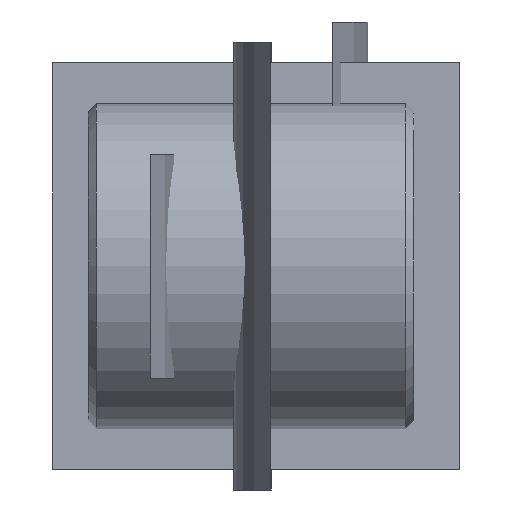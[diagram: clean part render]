
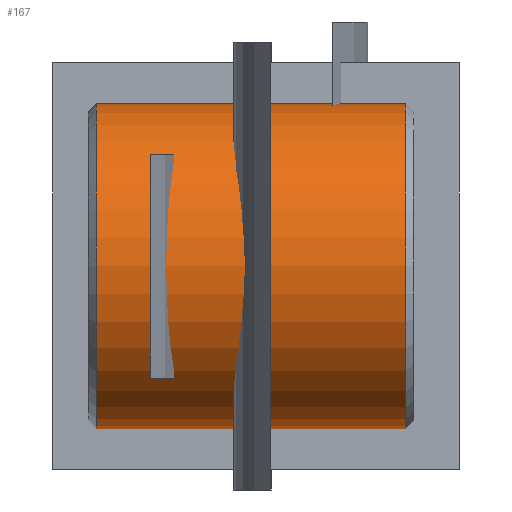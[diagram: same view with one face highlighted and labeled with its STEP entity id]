
A CAD part, left-side view. The second image highlights one B-rep face of the part: STEP entity #167.
In plain terms, the highlighted cylindrical face has radius 40 mm (diameter 80 mm), a partial arc.
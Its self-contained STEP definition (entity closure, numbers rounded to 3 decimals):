
#15 = FACE_OUTER_BOUND ( 'NONE', #90, .T. ) ;
#16 = LINE ( 'NONE', #91, #37 ) ;
#17 = AXIS2_PLACEMENT_3D ( 'NONE', #124, #268, #301 ) ;
#19 = EDGE_CURVE ( 'NONE', #422, #315, #344, .T. ) ;
#37 = VECTOR ( 'NONE', #299, 1000. ) ;
#56 = ORIENTED_EDGE ( 'NONE', *, *, #373, .F. ) ;
#90 = EDGE_LOOP ( 'NONE', ( #56, #233, #447, #119 ) ) ;
#91 = CARTESIAN_POINT ( 'NONE',  ( 0., 80., 40. ) ) ;
#111 = CARTESIAN_POINT ( 'NONE',  ( 0., 78., -40. ) ) ;
#119 = ORIENTED_EDGE ( 'NONE', *, *, #19, .T. ) ;
#122 = VECTOR ( 'NONE', #201, 1000. ) ;
#124 = CARTESIAN_POINT ( 'NONE',  ( 0., 78., 0. ) ) ;
#128 = AXIS2_PLACEMENT_3D ( 'NONE', #320, #172, #279 ) ;
#150 = DIRECTION ( 'NONE',  ( 0., -1., 0. ) ) ;
#153 = CARTESIAN_POINT ( 'NONE',  ( 0., 80., 0. ) ) ;
#167 = ADVANCED_FACE ( 'NONE', ( #15 ), #262, .T. ) ;
#172 = DIRECTION ( 'NONE',  ( 0., 1., 0. ) ) ;
#176 = VERTEX_POINT ( 'NONE', #111 ) ;
#189 = VERTEX_POINT ( 'NONE', #434 ) ;
#197 = CARTESIAN_POINT ( 'NONE',  ( 0., 80., -40. ) ) ;
#201 = DIRECTION ( 'NONE',  ( 0., -1., 0. ) ) ;
#211 = CARTESIAN_POINT ( 'NONE',  ( 0., 2., -40. ) ) ;
#233 = ORIENTED_EDGE ( 'NONE', *, *, #390, .T. ) ;
#244 = EDGE_CURVE ( 'NONE', #176, #422, #365, .T. ) ;
#259 = DIRECTION ( 'NONE',  ( 0., 0., -1. ) ) ;
#262 = CYLINDRICAL_SURFACE ( 'NONE', #272, 40. ) ;
#268 = DIRECTION ( 'NONE',  ( 0., -1., 0. ) ) ;
#272 = AXIS2_PLACEMENT_3D ( 'NONE', #153, #150, #259 ) ;
#279 = DIRECTION ( 'NONE',  ( 0., 0., 1. ) ) ;
#297 = CIRCLE ( 'NONE', #17, 40. ) ;
#299 = DIRECTION ( 'NONE',  ( 0., -1., 0. ) ) ;
#301 = DIRECTION ( 'NONE',  ( 0., 0., 1. ) ) ;
#304 = CARTESIAN_POINT ( 'NONE',  ( 0., 2., 40. ) ) ;
#315 = VERTEX_POINT ( 'NONE', #304 ) ;
#320 = CARTESIAN_POINT ( 'NONE',  ( 0., 2., 0. ) ) ;
#344 = CIRCLE ( 'NONE', #128, 40. ) ;
#365 = LINE ( 'NONE', #197, #122 ) ;
#373 = EDGE_CURVE ( 'NONE', #189, #315, #16, .T. ) ;
#390 = EDGE_CURVE ( 'NONE', #189, #176, #297, .T. ) ;
#422 = VERTEX_POINT ( 'NONE', #211 ) ;
#434 = CARTESIAN_POINT ( 'NONE',  ( 0., 78., 40. ) ) ;
#447 = ORIENTED_EDGE ( 'NONE', *, *, #244, .T. ) ;
